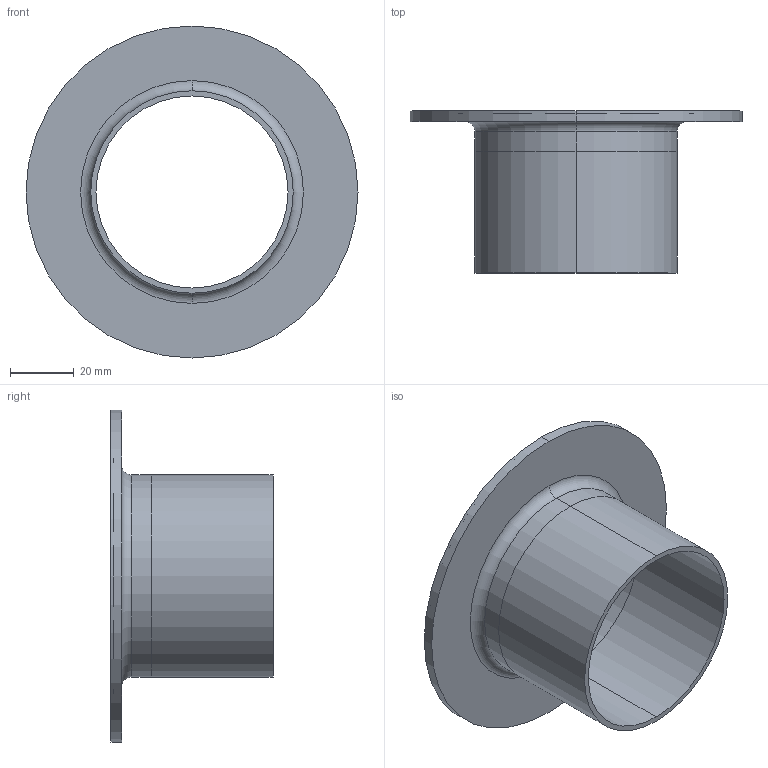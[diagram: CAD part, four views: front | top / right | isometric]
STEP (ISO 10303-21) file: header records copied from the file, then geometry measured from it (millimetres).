
FILE_DESCRIPTION (( 'STEP AP203' ), '1' );
FILE_NAME ('E14WA2.5.STEP', '2018-05-04T18:16:28', ( 'vneprd' ), ( 'Microsoft' ), 'SwSTEP 2.0', 'SolidWorks 2014', '' );
FILE_SCHEMA (( 'CONFIG_CONTROL_DESIGN' ));
Length unit declared in the file: inch
Products named in the file (3): E14WA2.5; TUBE2.5X1.500; V14WAB2.5
Assembly tree (2 placements, depth 2):
  E14WA2.5
    V14WAB2.5
    TUBE2.5X1.500
Bounding box: 104.09 x 50.8 x 104.09 mm (x, y, z)
Volume: 32147.8 mm3; surface area: 37509.5 mm2
Topology: 2 solids, 2 shells, 112 faces, 224 edges, 116 vertices
Faces by surface type: cone 96, cylinder 10, plane 4, torus 2
Entity records: 3145 total; most frequent: DIRECTION 576, CARTESIAN_POINT 457, ORIENTED_EDGE 448, AXIS2_PLACEMENT_3D 235, EDGE_CURVE 224, CIRCLE 118, VERTEX_POINT 116, EDGE_LOOP 116
